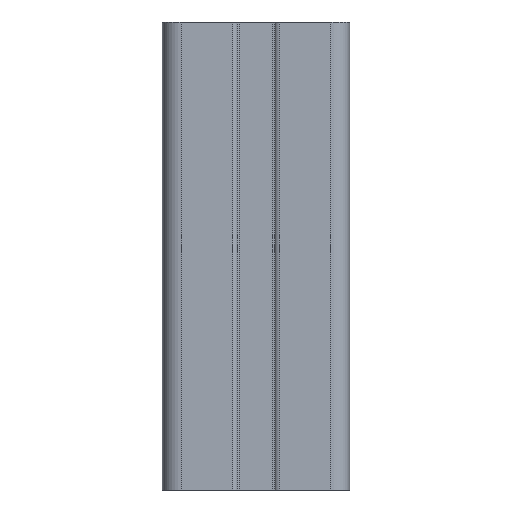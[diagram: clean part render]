
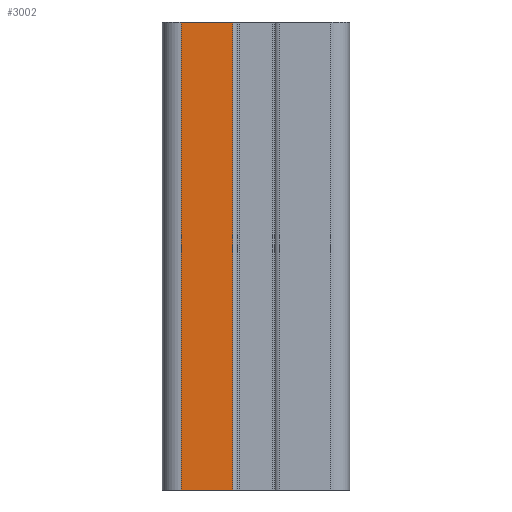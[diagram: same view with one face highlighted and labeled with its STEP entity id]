
A CAD part, left-side view. The second image highlights one B-rep face of the part: STEP entity #3002.
In plain terms, the highlighted planar face has unit normal (-1, 0, 0).
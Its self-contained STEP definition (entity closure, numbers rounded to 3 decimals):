
#317=FACE_OUTER_BOUND('',#471,.T.);
#471=EDGE_LOOP('',(#2183,#2184,#2185,#2186));
#693=LINE('',#4689,#997);
#694=LINE('',#4693,#998);
#695=LINE('',#4695,#999);
#696=LINE('',#4696,#1000);
#997=VECTOR('',#3764,100.);
#998=VECTOR('',#3769,11.);
#999=VECTOR('',#3770,100.);
#1000=VECTOR('',#3771,11.);
#1303=VERTEX_POINT('',#4686);
#1304=VERTEX_POINT('',#4688);
#1305=VERTEX_POINT('',#4692);
#1306=VERTEX_POINT('',#4694);
#1666=EDGE_CURVE('',#1304,#1303,#693,.T.);
#1668=EDGE_CURVE('',#1303,#1305,#694,.T.);
#1669=EDGE_CURVE('',#1306,#1305,#695,.T.);
#1670=EDGE_CURVE('',#1304,#1306,#696,.T.);
#2183=ORIENTED_EDGE('',*,*,#1668,.T.);
#2184=ORIENTED_EDGE('',*,*,#1669,.F.);
#2185=ORIENTED_EDGE('',*,*,#1670,.F.);
#2186=ORIENTED_EDGE('',*,*,#1666,.T.);
#2894=PLANE('',#3220);
#3002=ADVANCED_FACE('',(#317),#2894,.T.);
#3220=AXIS2_PLACEMENT_3D('',#4691,#3767,#3768);
#3764=DIRECTION('',(0.,0.,1.));
#3767=DIRECTION('center_axis',(-1.,0.,0.));
#3768=DIRECTION('ref_axis',(0.,0.,1.));
#3769=DIRECTION('',(0.,1.,0.));
#3770=DIRECTION('',(0.,0.,1.));
#3771=DIRECTION('',(0.,1.,0.));
#4686=CARTESIAN_POINT('',(-20.,5.,100.));
#4688=CARTESIAN_POINT('',(-20.,5.,0.));
#4689=CARTESIAN_POINT('',(-20.,5.,0.));
#4691=CARTESIAN_POINT('Origin',(-20.,5.,0.));
#4692=CARTESIAN_POINT('',(-20.,16.,100.));
#4693=CARTESIAN_POINT('',(-20.,5.,100.));
#4694=CARTESIAN_POINT('',(-20.,16.,0.));
#4695=CARTESIAN_POINT('',(-20.,16.,0.));
#4696=CARTESIAN_POINT('',(-20.,5.,0.));
